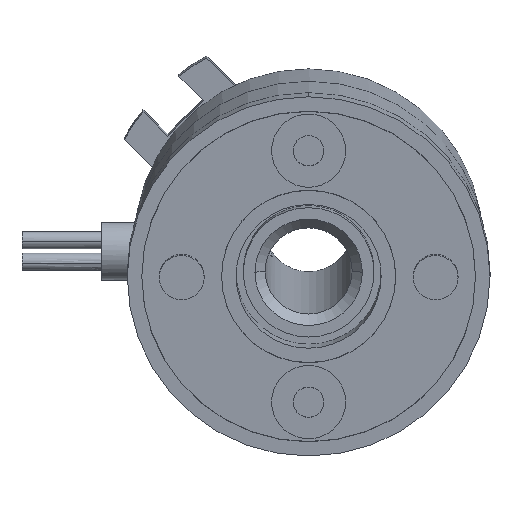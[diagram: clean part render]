
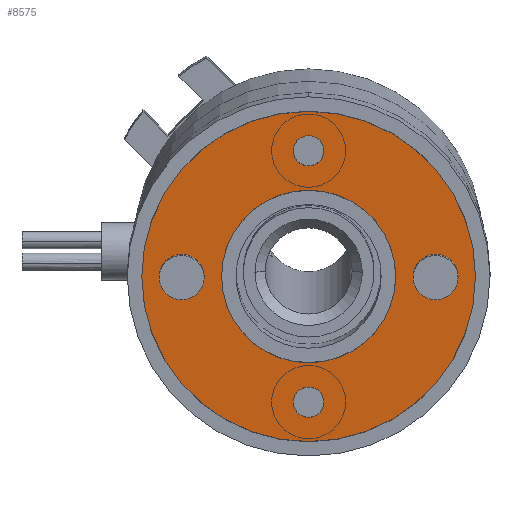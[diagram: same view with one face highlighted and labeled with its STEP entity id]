
A CAD part, left-side view. The second image highlights one B-rep face of the part: STEP entity #8575.
In plain terms, the highlighted planar face has unit normal (-0.99, 0, -0.139) as drawn and (0, 0, -1) by its records, which use the part's own axes.
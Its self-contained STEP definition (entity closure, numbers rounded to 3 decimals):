
#8125=CARTESIAN_POINT('',(-11.5,0.,0.0));
#8126=VERTEX_POINT('',#8125);
#8135=CARTESIAN_POINT('',(11.5,0.,0.0));
#8136=VERTEX_POINT('',#8135);
#8137=CARTESIAN_POINT('',(0.0,0.0,0.0));
#8138=DIRECTION('',(0.0,0.0,-1.0));
#8139=DIRECTION('',(-1.0,0.0,0.0));
#8140=AXIS2_PLACEMENT_3D('',#8137,#8138,#8139);
#8141=CIRCLE('',#8140,11.5);
#8142=EDGE_CURVE('',#8136,#8126,#8141,.T.);
#8169=CARTESIAN_POINT('',(-6.,0.,0.0));
#8170=VERTEX_POINT('',#8169);
#8186=CARTESIAN_POINT('',(6.,0.,0.0));
#8187=VERTEX_POINT('',#8186);
#8194=CARTESIAN_POINT('',(0.0,0.0,0.0));
#8195=DIRECTION('',(0.0,0.0,1.0));
#8196=DIRECTION('',(-1.0,0.0,0.0));
#8197=AXIS2_PLACEMENT_3D('',#8194,#8195,#8196);
#8198=CIRCLE('',#8197,6.);
#8199=EDGE_CURVE('',#8170,#8187,#8198,.T.);
#8209=CARTESIAN_POINT('',(-1.05,8.75,0.0));
#8210=VERTEX_POINT('',#8209);
#8219=CARTESIAN_POINT('',(1.05,8.75,0.0));
#8220=VERTEX_POINT('',#8219);
#8221=CARTESIAN_POINT('',(0.0,8.75,0.0));
#8222=DIRECTION('',(0.0,0.0,1.0));
#8223=DIRECTION('',(-1.0,0.0,0.0));
#8224=AXIS2_PLACEMENT_3D('',#8221,#8222,#8223);
#8225=CIRCLE('',#8224,1.05);
#8226=EDGE_CURVE('',#8220,#8210,#8225,.T.);
#8251=CARTESIAN_POINT('',(8.75,1.05,0.0));
#8252=VERTEX_POINT('',#8251);
#8261=CARTESIAN_POINT('',(8.75,-1.05,0.0));
#8262=VERTEX_POINT('',#8261);
#8263=CARTESIAN_POINT('',(8.75,0.,0.0));
#8264=DIRECTION('',(0.0,0.0,1.0));
#8265=DIRECTION('',(0.0,1.0,0.0));
#8266=AXIS2_PLACEMENT_3D('',#8263,#8264,#8265);
#8267=CIRCLE('',#8266,1.05);
#8268=EDGE_CURVE('',#8262,#8252,#8267,.T.);
#8293=CARTESIAN_POINT('',(-8.75,-1.05,0.0));
#8294=VERTEX_POINT('',#8293);
#8303=CARTESIAN_POINT('',(-8.75,1.05,0.0));
#8304=VERTEX_POINT('',#8303);
#8305=CARTESIAN_POINT('',(-8.75,0.,0.0));
#8306=DIRECTION('',(0.0,0.0,1.0));
#8307=DIRECTION('',(0.0,-1.0,0.0));
#8308=AXIS2_PLACEMENT_3D('',#8305,#8306,#8307);
#8309=CIRCLE('',#8308,1.05);
#8310=EDGE_CURVE('',#8304,#8294,#8309,.T.);
#8335=CARTESIAN_POINT('',(1.05,-8.75,0.0));
#8336=VERTEX_POINT('',#8335);
#8345=CARTESIAN_POINT('',(-1.05,-8.75,0.0));
#8346=VERTEX_POINT('',#8345);
#8347=CARTESIAN_POINT('',(0.,-8.75,0.0));
#8348=DIRECTION('',(0.0,0.0,1.0));
#8349=DIRECTION('',(1.0,0.0,0.0));
#8350=AXIS2_PLACEMENT_3D('',#8347,#8348,#8349);
#8351=CIRCLE('',#8350,1.05);
#8352=EDGE_CURVE('',#8346,#8336,#8351,.T.);
#8386=CARTESIAN_POINT('',(0.,-8.75,0.0));
#8387=DIRECTION('',(0.0,0.0,1.0));
#8388=DIRECTION('',(1.0,0.0,0.0));
#8389=AXIS2_PLACEMENT_3D('',#8386,#8387,#8388);
#8390=CIRCLE('',#8389,1.05);
#8391=EDGE_CURVE('',#8336,#8346,#8390,.T.);
#8410=CARTESIAN_POINT('',(-8.75,0.,0.0));
#8411=DIRECTION('',(0.0,0.0,1.0));
#8412=DIRECTION('',(0.0,-1.0,0.0));
#8413=AXIS2_PLACEMENT_3D('',#8410,#8411,#8412);
#8414=CIRCLE('',#8413,1.05);
#8415=EDGE_CURVE('',#8294,#8304,#8414,.T.);
#8434=CARTESIAN_POINT('',(8.75,0.,0.0));
#8435=DIRECTION('',(0.0,0.0,1.0));
#8436=DIRECTION('',(0.0,1.0,0.0));
#8437=AXIS2_PLACEMENT_3D('',#8434,#8435,#8436);
#8438=CIRCLE('',#8437,1.05);
#8439=EDGE_CURVE('',#8252,#8262,#8438,.T.);
#8458=CARTESIAN_POINT('',(0.0,8.75,0.0));
#8459=DIRECTION('',(0.0,0.0,1.0));
#8460=DIRECTION('',(-1.0,0.0,0.0));
#8461=AXIS2_PLACEMENT_3D('',#8458,#8459,#8460);
#8462=CIRCLE('',#8461,1.05);
#8463=EDGE_CURVE('',#8210,#8220,#8462,.T.);
#8474=CARTESIAN_POINT('',(0.0,0.0,0.0));
#8475=DIRECTION('',(0.0,0.0,1.0));
#8476=DIRECTION('',(-1.0,0.0,0.0));
#8477=AXIS2_PLACEMENT_3D('',#8474,#8475,#8476);
#8478=CIRCLE('',#8477,6.);
#8479=EDGE_CURVE('',#8187,#8170,#8478,.T.);
#8506=CARTESIAN_POINT('',(0.0,0.0,0.0));
#8507=DIRECTION('',(0.0,0.0,-1.0));
#8508=DIRECTION('',(-1.0,0.0,0.0));
#8509=AXIS2_PLACEMENT_3D('',#8506,#8507,#8508);
#8510=CIRCLE('',#8509,11.5);
#8511=EDGE_CURVE('',#8126,#8136,#8510,.T.);
#8546=CARTESIAN_POINT('',(0.0,0.0,0.0));
#8547=DIRECTION('',(0.0,0.0,-1.0));
#8548=DIRECTION('',(-1.0,0.0,0.0));
#8549=AXIS2_PLACEMENT_3D('',#8546,#8547,#8548);
#8550=PLANE('',#8549);
#8551=ORIENTED_EDGE('',*,*,#8142,.T.);
#8552=ORIENTED_EDGE('',*,*,#8511,.T.);
#8553=EDGE_LOOP('',(#8551,#8552));
#8554=FACE_OUTER_BOUND('',#8553,.T.);
#8555=ORIENTED_EDGE('',*,*,#8352,.T.);
#8556=ORIENTED_EDGE('',*,*,#8391,.T.);
#8557=EDGE_LOOP('',(#8555,#8556));
#8558=FACE_BOUND('',#8557,.T.);
#8559=ORIENTED_EDGE('',*,*,#8310,.T.);
#8560=ORIENTED_EDGE('',*,*,#8415,.T.);
#8561=EDGE_LOOP('',(#8559,#8560));
#8562=FACE_BOUND('',#8561,.T.);
#8563=ORIENTED_EDGE('',*,*,#8268,.T.);
#8564=ORIENTED_EDGE('',*,*,#8439,.T.);
#8565=EDGE_LOOP('',(#8563,#8564));
#8566=FACE_BOUND('',#8565,.T.);
#8567=ORIENTED_EDGE('',*,*,#8226,.T.);
#8568=ORIENTED_EDGE('',*,*,#8463,.T.);
#8569=EDGE_LOOP('',(#8567,#8568));
#8570=FACE_BOUND('',#8569,.T.);
#8571=ORIENTED_EDGE('',*,*,#8479,.T.);
#8572=ORIENTED_EDGE('',*,*,#8199,.T.);
#8573=EDGE_LOOP('',(#8571,#8572));
#8574=FACE_BOUND('',#8573,.T.);
#8575=ADVANCED_FACE('',(#8554,#8558,#8562,#8566,#8570,#8574),#8550,.T.);
